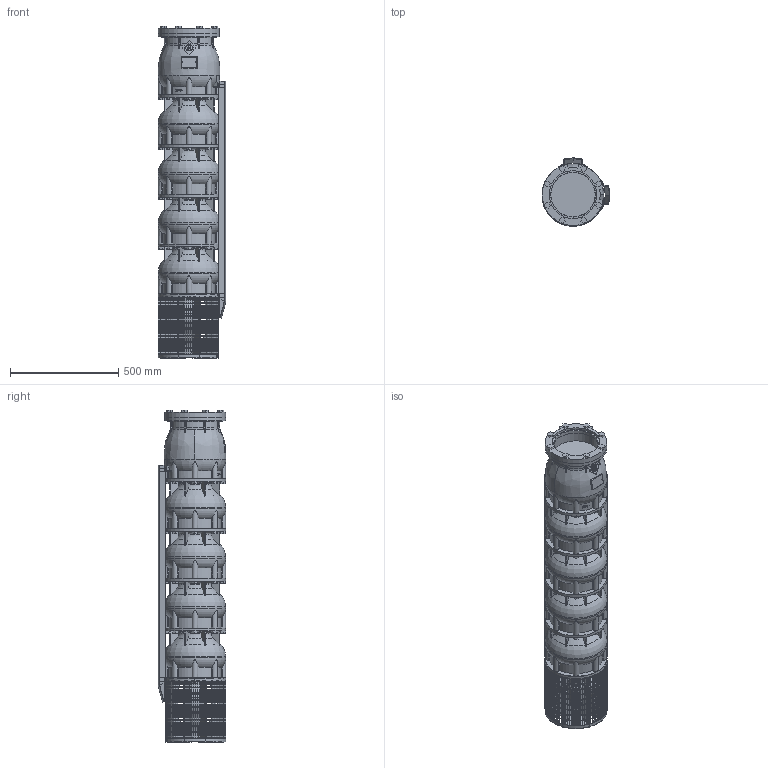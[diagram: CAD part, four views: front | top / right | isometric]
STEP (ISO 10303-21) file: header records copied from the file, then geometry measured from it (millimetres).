
FILE_DESCRIPTION(/* description */ ('-'),/* implementation_level */ '2;1');
FILE_NAME(/* name */ 'VSI454-4_WF_M12-50_SME',/* time_stamp */ '2026-01-21T14:54:27+01:00',/* author */ ('Simonelli M.'),/* organization */ ('Franklin Electric Srl'),/* preprocessor_version */ 'ST-DEVELOPER v18.102',/* originating_system */ 'Solid Edge',/* authorisation */ 'Unknown');
FILE_SCHEMA (('AUTOMOTIVE_DESIGN {1 0 10303 214 3 1 1}'));
Products named in the file (12): VSI454-4_WF_M12-50_SME; VSI344-454_testata; VSI344-454_supporto; VSI344-454_filtro_A; VSI344-454_filtro_B; VSI344-454_terminale_top_copricavo_medio; VSI344-454_terminale_bottom_copricavo_medio; MID 454-4; VSI454_diffusore; M5X8_UNI7687; VSI184-254_giunto_10×12; VSI344-454_flangia_testata
Assembly tree (28 placements, depth 2):
  VSI454-4_WF_M12-50_SME
    VSI344-454_testata
    VSI344-454_supporto
    VSI344-454_filtro_A
    VSI344-454_filtro_B
    VSI344-454_terminale_top_copricavo_medio  x2
    VSI344-454_terminale_bottom_copricavo_medio  x2
    MID 454-4  x2
    VSI454_diffusore  x4
    M5X8_UNI7687  x12
    VSI184-254_giunto_10×12
    VSI344-454_flangia_testata
Bounding box: 314.3 x 314.3 x 1535 mm (x, y, z)
Volume: 63840445.3 mm3; surface area: 3689610.7 mm2
Topology: 93 solids, 93 shells, 4479 faces, 12581 edges, 8355 vertices
Faces by surface type: plane 3574, cylinder 522, torus 259, cone 97, bspline 15, sphere 12
Full cylindrical faces by diameter (mm): 5 x12, 16 x8, 35 x1, 65 x1, 79 x1, 150 x1, 207 x1, 220.5 x1, 284.507 x4, 285 x4
Entity records: 124615 total; most frequent: CARTESIAN_POINT 28077, ORIENTED_EDGE 20264, DIRECTION 19374, EDGE_CURVE 10132, VERTEX_POINT 6757, AXIS2_PLACEMENT_3D 6545, LINE 6284, VECTOR 6284
